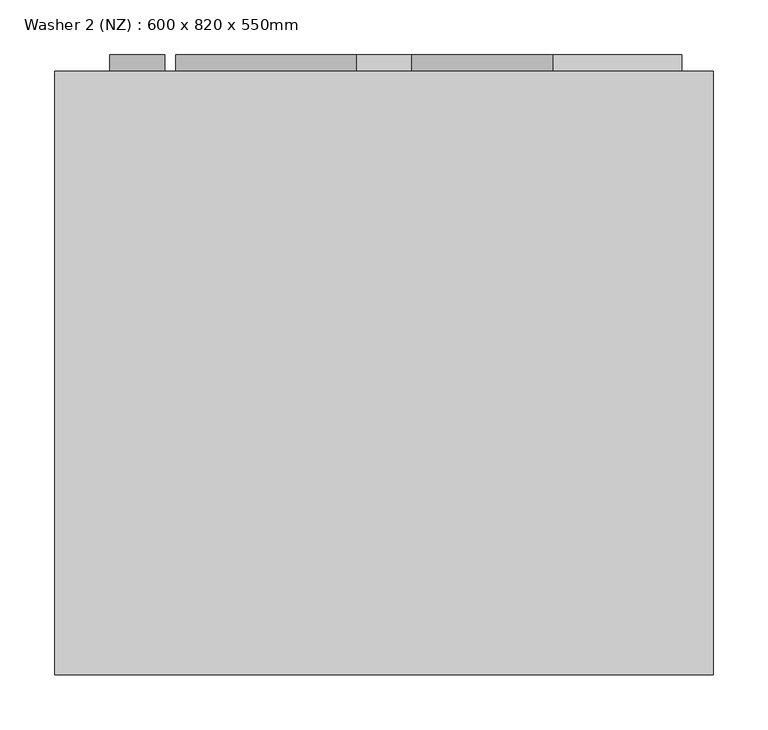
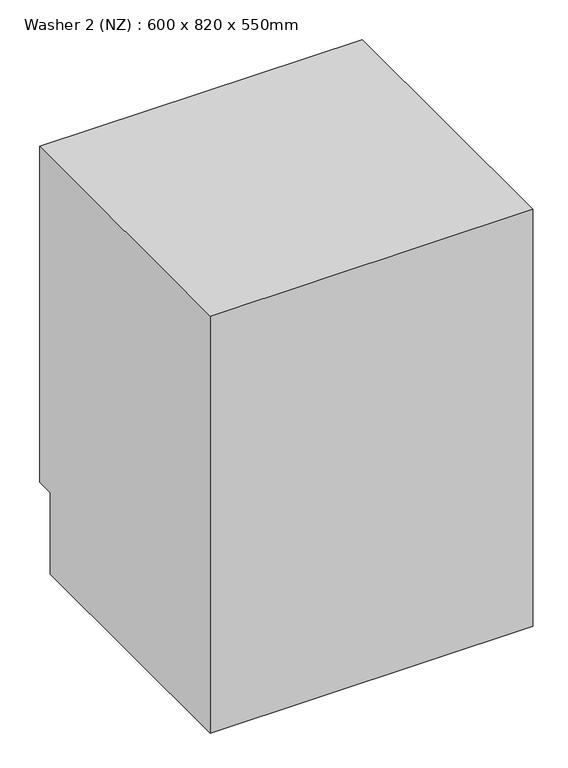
"""IFC4 building model written with IfcOpenShell, lengths in millimetres: proxy geometry, Washer 2 (NZ) : 600 x 820 x 550mm."""

import ifcopenshell
import ifcopenshell.guid

model = None  # the IFC model being written
_history = None  # IfcOwnerHistory: only IFC2X3 demands one
_inside = {}  # id of a spatial element -> (the spatial element, [elements in it])
_under = {}  # id of a project, library or spatial element -> (it, [spatial elements below it])
_declared = {}  # id of a project -> (the project, [libraries it declares])
_typed = {}  # id of a type object -> (the type object, [elements of that type])
_made_of = {}  # id of a material, layer set ... -> (it, [elements and type objects made of it])


def new_model(schema):
    """Start an empty IFC model of exactly this schema.

    Asked for "IFC4X3", IfcOpenShell would pick the latest addendum, in which some entities
    have other attributes; the version numbers below select the first issue.
    IFC2X3 requires an IfcOwnerHistory on every rooted entity: one is made here for all.
    """
    global model, _history
    if schema == "IFC4X3":
        model = ifcopenshell.file(schema_version=(4, 3, 0, 0))
    else:
        model = ifcopenshell.file(schema=schema)
    _inside.clear()
    _under.clear()
    _declared.clear()
    _typed.clear()
    _made_of.clear()
    _history = None
    if model.schema == "IFC2X3":
        org = make("IfcOrganization", Name="unknown")
        user = make(
            "IfcPersonAndOrganization",
            ThePerson=make("IfcPerson", FamilyName="unknown"),
            TheOrganization=org,
        )
        app = make(
            "IfcApplication",
            ApplicationDeveloper=org,
            Version="unknown",
            ApplicationFullName="unknown",
            ApplicationIdentifier="unknown",
        )
        _history = make(
            "IfcOwnerHistory",
            OwningUser=user,
            OwningApplication=app,
            ChangeAction="ADDED",
            CreationDate=0,
        )
    return model


def make(cls, **values):
    """One entity of the class cls with the attributes given. An attribute that is None is left unset."""
    return model.create_entity(
        cls, **{name: value for name, value in values.items() if value is not None}
    )


def rooted(cls, **values):
    """An entity with a GlobalId (a new one), such as an element, a storey or a relation."""
    return make(cls, GlobalId=ifcopenshell.guid.new(), OwnerHistory=_history, **values)


def si_unit(unit_type, name, prefix=None):
    """IfcSIUnit, for example si_unit("LENGTHUNIT", "METRE", prefix="MILLI")."""
    return make("IfcSIUnit", UnitType=unit_type, Prefix=prefix, Name=name)


def assignment(units):
    """IfcUnitAssignment: the units of a project."""
    return None if units is None else make("IfcUnitAssignment", Units=units)


def point(xyz):
    """IfcCartesianPoint."""
    return None if xyz is None else make("IfcCartesianPoint", Coordinates=xyz)


def direction(xyz):
    """IfcDirection."""
    return None if xyz is None else make("IfcDirection", DirectionRatios=xyz)


def frame(location, z_axis=None, x_axis=None):
    """IfcAxis2Placement3D, a coordinate frame: its origin and axes. An axis left out is left unset."""
    return make(
        "IfcAxis2Placement3D",
        Location=point(location),
        Axis=direction(z_axis),
        RefDirection=direction(x_axis),
    )


def frame_2d(location, x_axis=None):
    """IfcAxis2Placement2D, a coordinate frame in the plane: its origin and x axis."""
    return make(
        "IfcAxis2Placement2D", Location=point(location), RefDirection=direction(x_axis)
    )


def origin():
    """The frame at (0, 0, 0) with its axes left unset."""
    return frame((0.0, 0.0, 0.0))


def place(relative_to, where):
    """IfcLocalPlacement: puts the frame where relative to a parent placement (None: the world)."""
    return make(
        "IfcLocalPlacement", PlacementRelTo=relative_to, RelativePlacement=where
    )


def context(
    kind, dimensions, precision=None, world=None, true_north=None, identifier=None
):
    """IfcGeometricRepresentationContext, for example the 3D "Model" context."""
    return make(
        "IfcGeometricRepresentationContext",
        ContextIdentifier=identifier,
        ContextType=kind,
        CoordinateSpaceDimension=dimensions,
        Precision=precision,
        WorldCoordinateSystem=world,
        TrueNorth=true_north,
    )


def project(units=None, contexts=None):
    """IfcProject with its units and contexts."""
    return rooted(
        "IfcProject",
        Name="project",
        RepresentationContexts=contexts,
        UnitsInContext=assignment(units),
    )


def spatial(cls, under=None, at=None, **own):
    """A site, building, storey or space (cls), placed at a placement, below another one or the project."""
    s = rooted(cls, ObjectPlacement=at, **own)
    if under is not None:
        _under.setdefault(under.id(), (under, []))[1].append(s)
    return s


def polyline(points):
    """IfcPolyline through the points."""
    return make("IfcPolyline", Points=[point(p) for p in points])


def circle_curve(where, radius):
    """IfcCircle in the frame where."""
    return make("IfcCircle", Position=where, Radius=radius)


def trimmed(basis, trim1, trim2, sense, master):
    """IfcTrimmedCurve: the piece of a basis curve between two trims."""
    return make(
        "IfcTrimmedCurve",
        BasisCurve=basis,
        Trim1=trim1,
        Trim2=trim2,
        SenseAgreement=sense,
        MasterRepresentation=master,
    )


def segment(curve, same_sense, transition):
    """IfcCompositeCurveSegment."""
    return make(
        "IfcCompositeCurveSegment",
        Transition=transition,
        SameSense=same_sense,
        ParentCurve=curve,
    )


def composite_curve(segments, self_intersect=None):
    """IfcCompositeCurve: segments joined end to end."""
    return make("IfcCompositeCurve", Segments=segments, SelfIntersect=self_intersect)


def outline(outer, holes=None, kind="AREA"):
    """IfcArbitraryClosedProfileDef: a profile drawn as a closed curve; with holes, ...WithVoids."""
    if holes is None:
        return make("IfcArbitraryClosedProfileDef", ProfileType=kind, OuterCurve=outer)
    return make(
        "IfcArbitraryProfileDefWithVoids",
        ProfileType=kind,
        OuterCurve=outer,
        InnerCurves=holes,
    )


def extrude(swept, where, along, depth):
    """IfcExtrudedAreaSolid: the profile swept, set in the frame where, extruded along a direction by depth."""
    return make(
        "IfcExtrudedAreaSolid",
        SweptArea=swept,
        Position=where,
        ExtrudedDirection=direction(along),
        Depth=depth,
    )


def shape(context_of_items, identifier, shape_type, items):
    """IfcShapeRepresentation: the items that make up one representation, for example the "Body"."""
    return make(
        "IfcShapeRepresentation",
        ContextOfItems=context_of_items,
        RepresentationIdentifier=identifier,
        RepresentationType=shape_type,
        Items=items,
    )


def source(mapping_origin, context_of_items, identifier, shape_type, items):
    """IfcRepresentationMap: a shape defined once, which mapped items show again and again."""
    return make(
        "IfcRepresentationMap",
        MappingOrigin=mapping_origin,
        MappedRepresentation=shape(context_of_items, identifier, shape_type, items),
    )


def transform(
    local_origin,
    x_axis=None,
    y_axis=None,
    z_axis=None,
    scale=None,
    scale2=None,
    scale3=None,
    uniform=True,
):
    """IfcCartesianTransformationOperator3D, or its non-uniform kind. x_axis, y_axis, z_axis: its Axis1, 2, 3."""
    if uniform:
        return make(
            "IfcCartesianTransformationOperator3D",
            Axis1=direction(x_axis),
            Axis2=direction(y_axis),
            LocalOrigin=point(local_origin),
            Scale=scale,
            Axis3=direction(z_axis),
        )
    return make(
        "IfcCartesianTransformationOperator3DnonUniform",
        Axis1=direction(x_axis),
        Axis2=direction(y_axis),
        LocalOrigin=point(local_origin),
        Scale=scale,
        Axis3=direction(z_axis),
        Scale2=scale2,
        Scale3=scale3,
    )


def mapped(mapping_source, mapping_target):
    """IfcMappedItem: shows the shape of a source again, moved by a transform."""
    return make(
        "IfcMappedItem", MappingSource=mapping_source, MappingTarget=mapping_target
    )


def made_of(thing, what):
    """Note that an element or type object is made of a material, layer set ...; save() writes the relation."""
    if what is not None:
        _made_of.setdefault(what.id(), (what, []))[1].append(thing)
    return thing


def element(
    cls,
    number,
    at=None,
    inside=None,
    cuts=None,
    type_object=None,
    material=None,
    context=None,
    identifier="Body",
    shape_type=None,
    held_by="IfcProductDefinitionShape",
    body=None,
    shapes=None,
    **own,
):
    """One element of the class cls, such as IfcWall. Its Tag is "e" and its number.

    at: its placement. inside: the storey or other place that contains it. cuts: it is an
    opening in that element (IfcRelVoidsElement). A single representation is given by context,
    identifier, shape_type and body (its items); several are given by shapes. held_by: the class
    of the entity that holds the representations. save() writes the other relations.
    """
    e = rooted(cls, Tag="e%d" % number, ObjectPlacement=at, **own)
    if body is not None:
        shapes = [shape(context, identifier, shape_type, body)]
    if shapes is not None:
        e.Representation = make(held_by, Representations=shapes)
    if inside is not None:
        _inside.setdefault(inside.id(), (inside, []))[1].append(e)
    if cuts is not None:
        rooted(
            "IfcRelVoidsElement", RelatingBuildingElement=cuts, RelatedOpeningElement=e
        )
    if type_object is not None:
        _typed.setdefault(type_object.id(), (type_object, []))[1].append(e)
    return made_of(e, material)


def aggregate(whole, parts):
    """IfcRelAggregates: a whole, such as a stair, and the parts it consists of."""
    return rooted("IfcRelAggregates", RelatingObject=whole, RelatedObjects=parts)


def save(model, path):
    """Write the relations noted so far, then the file.

    IfcRelAggregates (storeys below a building ...), IfcRelContainedInSpatialStructure (elements
    in a storey), IfcRelDefinesByType, IfcRelAssociatesMaterial and IfcRelDeclares: one each for
    every whole, place, type object, material and project.
    """
    for whole, parts in _under.values():
        aggregate(whole, parts)
    for where, things in _inside.values():
        rooted(
            "IfcRelContainedInSpatialStructure",
            RelatedElements=things,
            RelatingStructure=where,
        )
    for kind, things in _typed.values():
        rooted("IfcRelDefinesByType", RelatedObjects=things, RelatingType=kind)
    for what, things in _made_of.values():
        rooted("IfcRelAssociatesMaterial", RelatedObjects=things, RelatingMaterial=what)
    for by, libraries in _declared.values():
        rooted("IfcRelDeclares", RelatingContext=by, RelatedDefinitions=libraries)
    model.write(path)


def plane_surface(at):
    """IfcPlane: the flat surface through the origin of the frame at, square to its z axis."""
    return make("IfcPlane", Position=at)


def revolved_surface(curve, axis_point, axis_direction):
    """IfcSurfaceOfRevolution: the curve turned about the line through axis_point along axis_direction."""
    return make(
        "IfcSurfaceOfRevolution",
        SweptCurve=make("IfcArbitraryOpenProfileDef", ProfileType="CURVE", Curve=curve),
        AxisPosition=make("IfcAxis1Placement", Location=point(axis_point), Axis=direction(axis_direction)),
    )


def advanced_brep(points, edges, surfaces, faces):
    """IfcAdvancedBrep: a solid bounded by faces that lie on surfaces and meet in shared edges.

    An edge is (start, end): straight between two places in points (the first is 0);
    or (start, end, curve); or (start, end, curve, False) where it runs against its curve.
    A face is (place in surfaces, loops), or (place, loops, False) where it looks against
    its surface's normal. A loop lists edges by number (the first is 1), with a minus sign
    where the edge is run from its end to its start. The first loop is the outer one.
    """
    corners = [point(p) for p in points]
    vertices = [make("IfcVertexPoint", VertexGeometry=c) for c in corners]
    made = []
    for start, end, *more in edges:
        made.append(
            make(
                "IfcEdgeCurve",
                EdgeStart=vertices[start],
                EdgeEnd=vertices[end],
                EdgeGeometry=more[0] if more else make("IfcPolyline", Points=[corners[start], corners[end]]),
                SameSense=more[1] if len(more) > 1 else True,
            )
        )
    hull = []
    for where, loops, *sense in faces:
        bounds = []
        for j, loop in enumerate(loops):
            ring = [make("IfcOrientedEdge", EdgeElement=made[abs(k) - 1], Orientation=k > 0) for k in loop]
            bounds.append(
                make(
                    "IfcFaceOuterBound" if j == 0 else "IfcFaceBound",
                    Bound=make("IfcEdgeLoop", EdgeList=ring),
                    Orientation=True,
                )
            )
        hull.append(make("IfcAdvancedFace", Bounds=bounds, FaceSurface=surfaces[where], SameSense=sense[0] if sense else True))
    return make("IfcAdvancedBrep", Outer=make("IfcClosedShell", CfsFaces=hull))


def washer_2_nz_600_x_820_x_550mm_ef1b6fe7(model_context):
    return source(origin(), model_context, "Body", "SolidModel", [
        advanced_brep(
        [(-451.3135585, 125.0, 0.0), (-451.3135585, 125.0, 820.0), (-451.3135585, 675.0, 820.0), (-451.3135585, 675.0, 160.0), (-451.3135585, 640.0, 160.0), (-451.3135585, 640.0, 0.0), (148.6864415, 125.0, 0.0), (148.6864415, 640.0, 0.0), (148.6864415, 640.0, 160.0), (148.6864415, 675.0, 160.0), (148.6864415, 675.0, 820.0), (148.6864415, 125.0, 820.0), (-11.3135585, 675.0, 440.0), (-291.3135585, 675.0, 440.0), (-11.3135585, 425.0, 440.0), (-291.3135585, 425.0, 440.0)],
        [
            (0, 1),
            (1, 2),
            (2, 3),
            (3, 4),
            (4, 5),
            (5, 0),
            (6, 7),
            (7, 8),
            (8, 9),
            (9, 10),
            (10, 11),
            (11, 6),
            (0, 6),
            (11, 1),
            (10, 2),
            (9, 3),
            (12, 13, circle_curve(frame((-151.3135585, 675.0, 440.0), z_axis=(0.0, -1.0, 0.0), x_axis=(-1.0, 0.0, 0.0)), 140.0)),
            (13, 12, circle_curve(frame((-151.3135585, 675.0, 440.0), z_axis=(0.0, -1.0, 0.0), x_axis=(-1.0, 0.0, 0.0)), 140.0)),
            (8, 4),
            (7, 5),
            (14, 15, circle_curve(frame((-151.3135585, 425.0, 440.0), z_axis=(0.0, 1.0, 0.0), x_axis=(-1.0, 0.0, 0.0)), 140.0)),
            (15, 14, circle_curve(frame((-151.3135585, 425.0, 440.0), z_axis=(0.0, 1.0, 0.0), x_axis=(-1.0, 0.0, 0.0)), 140.0)),
            (15, 13),
            (12, 14),
        ],
        [
            plane_surface(frame((-451.3135585, 125.0, 820.0), z_axis=(-1.0, 0.0, 0.0), x_axis=(0.0, 0.0, 1.0))),
            plane_surface(frame((148.6864415, 125.0, 820.0), z_axis=(1.0, 0.0, 0.0), x_axis=(0.0, 0.0, -1.0))),
            plane_surface(frame((-451.3135585, 125.0, 0.0), z_axis=(0.0, -1.0, 0.0), x_axis=(1.0, 0.0, 0.0))),
            plane_surface(frame((-451.3135585, 125.0, 820.0), z_axis=(0.0, 0.0, 1.0), x_axis=(1.0, 0.0, 0.0))),
            plane_surface(frame((-451.3135585, 675.0, 820.0), z_axis=(0.0, 1.0, 0.0), x_axis=(1.0, 0.0, 0.0))),
            plane_surface(frame((-451.3135585, 675.0, 160.0), z_axis=(0.0, 0.0, -1.0), x_axis=(1.0, 0.0, 0.0))),
            plane_surface(frame((-451.3135585, 640.0, 160.0), z_axis=(0.0, 1.0, 0.0), x_axis=(1.0, 0.0, 0.0))),
            plane_surface(frame((-451.3135585, 640.0, 0.0), z_axis=(0.0, 0.0, -1.0), x_axis=(1.0, 0.0, 0.0))),
            plane_surface(frame((-291.3135585, 425.0, 440.0), z_axis=(0.0, 1.0, 0.0), x_axis=(0.0, 0.0, -1.0))),
            revolved_surface(polyline([(-291.3135585, 425.0, 440.0), (-291.3135585, 675.0, 440.0)]), (-151.3135585, 675.0, 440.0), (0.0, -1.0, 0.0)),
        ],
        [
            (0, [[1, 2, 3, 4, 5, 6]]),
            (1, [[7, 8, 9, 10, 11, 12]]),
            (2, [[-1, 13, -12, 14]]),
            (3, [[-2, -14, -11, 15]]),
            (4, [[-3, -15, -10, 16], [17, 18]]),
            (5, [[-4, -16, -9, 19]]),
            (6, [[-5, -19, -8, 20]]),
            (7, [[-6, -20, -7, -13]]),
            (8, [[21, 22]]),
            (9, [[-22, 23, -17, 24]]),
            (9, [[-21, -24, -18, -23]]),
        ],
    ),
        extrude(outline(composite_curve([segment(trimmed(circle_curve(frame_2d((440.0, -151.3135585)), 140.0), [point((440.0, -291.3135585))], [point((440.0, -11.3135585))], False, "CARTESIAN"), True, "CONTINUOUS"), segment(trimmed(circle_curve(frame_2d((440.0, -151.3135585)), 140.0), [point((440.0, -11.3135585))], [point((440.0, -291.3135585))], False, "CARTESIAN"), True, "CONTINUOUS")], self_intersect=False)), frame((0.0, 675.0, 0.0), z_axis=(0.0, 1.0, 0.0), x_axis=(0.0, 0.0, 1.0)), (0.0, 0.0, 1.0), 15.0),
        extrude(outline(composite_curve([segment(trimmed(circle_curve(frame_2d((440.0, -151.3135585)), 190.0), [point((440.0, -341.3135585))], [point((440.0, 38.6864415))], False, "CARTESIAN"), True, "CONTINUOUS"), segment(trimmed(circle_curve(frame_2d((440.0, -151.3135585)), 190.0), [point((440.0, 38.6864415))], [point((440.0, -341.3135585))], False, "CARTESIAN"), True, "CONTINUOUS")], self_intersect=False), holes=[composite_curve([segment(trimmed(circle_curve(frame_2d((440.0, -151.3135585)), 140.0), [point((440.0, -291.3135585))], [point((440.0, -11.3135585))], True, "CARTESIAN"), True, "CONTINUOUS"), segment(trimmed(circle_curve(frame_2d((440.0, -151.3135585)), 140.0), [point((440.0, -11.3135585))], [point((440.0, -291.3135585))], True, "CARTESIAN"), True, "CONTINUOUS")], self_intersect=False)]), frame((0.0, 675.0, 0.0), z_axis=(0.0, 1.0, 0.0), x_axis=(0.0, 0.0, 1.0)), (0.0, 0.0, 1.0), 15.0),
        extrude(outline(composite_curve([segment(trimmed(circle_curve(frame_2d((761.0845617, -376.3135585)), 25.0), [point((761.0845617, -401.3135585))], [point((761.0845617, -351.3135585))], False, "CARTESIAN"), True, "CONTINUOUS"), segment(trimmed(circle_curve(frame_2d((761.0845617, -376.3135585)), 25.0), [point((761.0845617, -351.3135585))], [point((761.0845617, -401.3135585))], False, "CARTESIAN"), True, "CONTINUOUS")], self_intersect=False)), frame((0.0, 675.0, 0.0), z_axis=(0.0, 1.0, 0.0), x_axis=(0.0, 0.0, 1.0)), (0.0, 0.0, 1.0), 15.0),
        extrude(outline(polyline([(3.1591715, 690.0), (119.995263, 690.0), (119.995263, 675.0), (3.1591715, 675.0), (3.1591715, 690.0)])), frame((0.0, 0.0, 736.0845617), z_axis=(0.0, 0.0, 1.0), x_axis=(1.0, 0.0, 0.0)), (0.0, 0.0, 1.0), 25.0),
        extrude(outline(polyline([(-176.3135585, 690.0), (-126.3135585, 690.0), (-126.3135585, 675.0), (-176.3135585, 675.0), (-176.3135585, 690.0)])), frame((0.0, 0.0, 741.0845617), z_axis=(0.0, 0.0, 1.0), x_axis=(1.0, 0.0, 0.0)), (0.0, 0.0, 1.0), 40.0),
    ])


if __name__ == "__main__":
    model = new_model("IFC4")
    model_context = context("Model", 3, world=origin())
    ifc_project = project(units=[si_unit("LENGTHUNIT", "METRE", prefix="MILLI")], contexts=[model_context])
    site = spatial("IfcSite", under=ifc_project)
    building = spatial("IfcBuilding", under=site)
    placement = place(None, origin())
    washer_2_nz_600_x_820_x_550mm_shape = washer_2_nz_600_x_820_x_550mm_ef1b6fe7(model_context)
    element("IfcBuildingElementProxy", 1, Name="Washer 2 (NZ) : 600 x 820 x 550mm", ObjectType="Washer 2 (NZ) : 600 x 820 x 550mm", at=placement, inside=building, context=model_context, shape_type="MappedRepresentation", body=[
        mapped(washer_2_nz_600_x_820_x_550mm_shape, transform((0.0, 0.0, 0.0), x_axis=(1.0, 0.0, 0.0), y_axis=(0.0, 1.0, 0.0), z_axis=(0.0, 0.0, 1.0))),
    ])
    save(model, "model.ifc")
